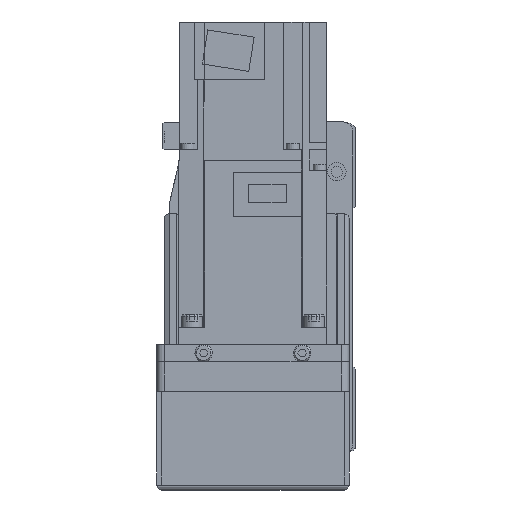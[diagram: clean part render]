
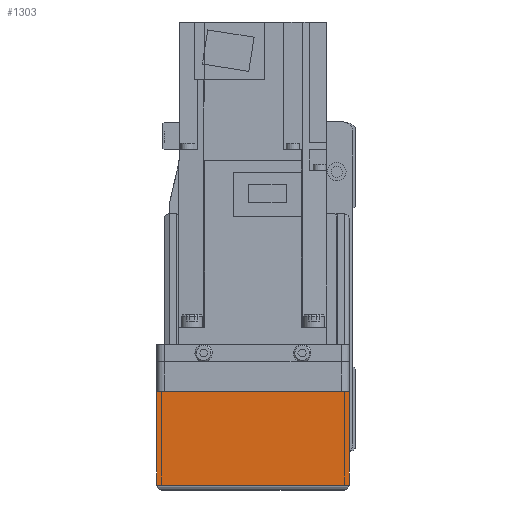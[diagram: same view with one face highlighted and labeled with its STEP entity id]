
A CAD part, left-side view. The second image highlights one B-rep face of the part: STEP entity #1303.
In plain terms, the highlighted planar face has unit normal (-1, 0, 0).
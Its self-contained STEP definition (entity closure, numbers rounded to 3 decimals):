
#1303 = ADVANCED_FACE( '', ( #3521 ), #3522, .F. );
#3521 = FACE_OUTER_BOUND( '', #7014, .T. );
#3522 = PLANE( '', #7015 );
#7014 = EDGE_LOOP( '', ( #10699, #10700, #10701, #10702 ) );
#7015 = AXIS2_PLACEMENT_3D( '', #10703, #10704, #10705 );
#10699 = ORIENTED_EDGE( '', *, *, #19773, .F. );
#10700 = ORIENTED_EDGE( '', *, *, #19774, .F. );
#10701 = ORIENTED_EDGE( '', *, *, #19775, .T. );
#10702 = ORIENTED_EDGE( '', *, *, #19776, .F. );
#10703 = CARTESIAN_POINT( '', ( -158., 36., 7. ) );
#10704 = DIRECTION( '', ( 1., 0., 0. ) );
#10705 = DIRECTION( '', ( 0., 0., -1. ) );
#19773 = EDGE_CURVE( '', #23501, #23502, #23503, .T. );
#19774 = EDGE_CURVE( '', #23504, #23501, #23505, .T. );
#19775 = EDGE_CURVE( '', #23504, #23506, #23507, .T. );
#19776 = EDGE_CURVE( '', #23502, #23506, #23508, .T. );
#23501 = VERTEX_POINT( '', #28963 );
#23502 = VERTEX_POINT( '', #28964 );
#23503 = LINE( '', #28965, #28966 );
#23504 = VERTEX_POINT( '', #28967 );
#23505 = LINE( '', #28968, #28969 );
#23506 = VERTEX_POINT( '', #28970 );
#23507 = LINE( '', #28971, #28972 );
#23508 = LINE( '', #28973, #28974 );
#28963 = CARTESIAN_POINT( '', ( -158., 39., -12.1 ) );
#28964 = CARTESIAN_POINT( '', ( -158., -39., -12.1 ) );
#28965 = CARTESIAN_POINT( '', ( -158., 50., -12.1 ) );
#28966 = VECTOR( '', #36898, 1000. );
#28967 = CARTESIAN_POINT( '', ( -158., 39., -50. ) );
#28968 = CARTESIAN_POINT( '', ( -158., 39., -50. ) );
#28969 = VECTOR( '', #36899, 1000. );
#28970 = CARTESIAN_POINT( '', ( -158., -39., -50. ) );
#28971 = CARTESIAN_POINT( '', ( -158., 40., -50. ) );
#28972 = VECTOR( '', #36900, 1000. );
#28973 = CARTESIAN_POINT( '', ( -158., -39., -12.1 ) );
#28974 = VECTOR( '', #36901, 1000. );
#36898 = DIRECTION( '', ( 0., -1., 0. ) );
#36899 = DIRECTION( '', ( 0., 0., 1. ) );
#36900 = DIRECTION( '', ( 0., -1., 0. ) );
#36901 = DIRECTION( '', ( 0., 0., -1. ) );
